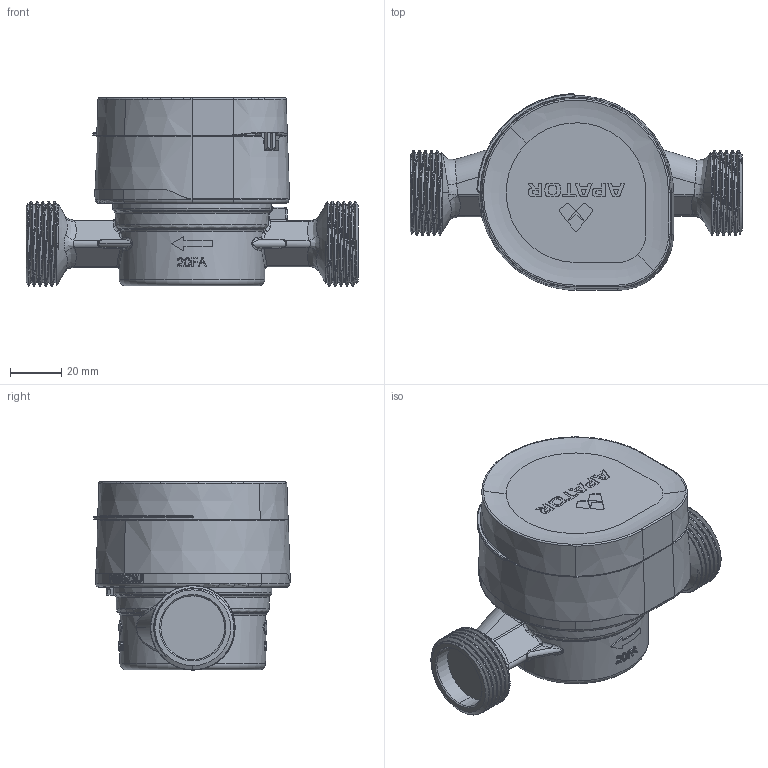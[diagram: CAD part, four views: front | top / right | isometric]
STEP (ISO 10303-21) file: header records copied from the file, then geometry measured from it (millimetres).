
FILE_DESCRIPTION (( 'STEP AP214' ), '1' );
FILE_NAME ('JS90-4-05.STEP', '2025-05-23T07:35:12', ( '' ), ( '' ), 'SwSTEP 2.0', 'SolidWorks 2019', '' );
FILE_SCHEMA (( 'AUTOMOTIVE_DESIGN' ));
Length unit declared in the file: millimetre
Products named in the file (11): JS90-4-05.STEP; Assembly-1108.STEP; js4.STEP; szklanka.STEP; JS90-4-05; Liczyd_o.STEP; 9004-750202_zagi_ta.STEP; 9004-750201.STEP; Part-3116.STEP; Part-3117.STEP; Part-3118.STEP
Assembly tree (10 placements, depth 4):
  JS90-4-05
    JS90-4-05.STEP
      Assembly-1108.STEP
        9004-750201.STEP
        9004-750202_zagi_ta.STEP
      js4.STEP
      Part-3118.STEP
      Part-3117.STEP
      Part-3116.STEP
      Liczyd_o.STEP
      szklanka.STEP
Bounding box: 130 x 77.02 x 73.66 mm (x, y, z)
Volume: 258996.5 mm3; surface area: 101624.3 mm2
Topology: 9 solids, 18 shells, 2601 faces, 7146 edges, 4649 vertices
Faces by surface type: plane 1137, bspline 573, cylinder 506, cone 255, torus 106, sphere 24
Entity records: 144969 total; most frequent: CARTESIAN_POINT 78324, ORIENTED_EDGE 14244, DIRECTION 10460, EDGE_CURVE 7122, VERTEX_POINT 4646, AXIS2_PLACEMENT_3D 3787, LINE 2886, VECTOR 2886
